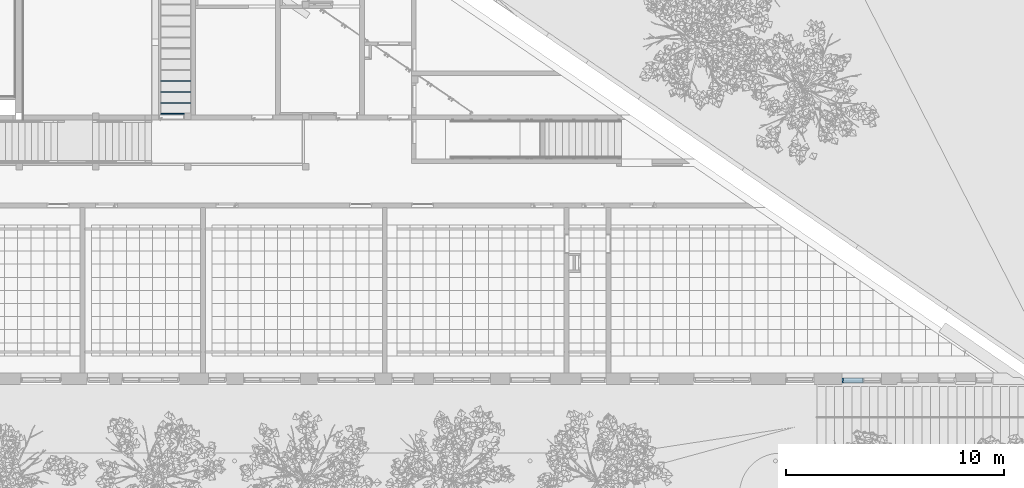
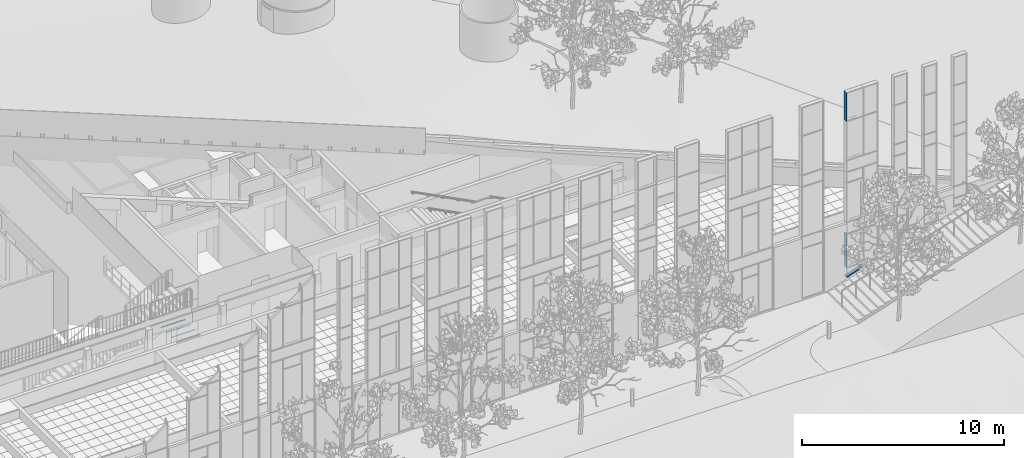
# One storey, part 80 of 246: 4 beams, 3 members, 1 element without a shape of its own.
"""IFC2X3 building model written with IfcOpenShell, lengths in millimetres."""

from ifc_helpers import new_model, entity, si_unit, converted_unit, derived_unit, money_unit, direction, frame, origin_with_axes, place, context, subcontext, project, spatial, faceted_brep, material, type_object, element, aggregate, save


model = new_model("IFC2X3")

# Units and contexts
model_context = context("Model", 3, precision=0.01, world=origin_with_axes(), true_north=direction((0.0, 1.0)))
body_context = subcontext(model_context, "Body", "Model", "MODEL_VIEW")
ifc_project = project(units=[si_unit("LENGTHUNIT", "METRE", prefix="MILLI"), si_unit("AREAUNIT", "SQUARE_METRE"), si_unit("VOLUMEUNIT", "CUBIC_METRE"), converted_unit("PLANEANGLEUNIT", "DEGREE", entity("IfcPlaneAngleMeasure", 0.0174532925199), si_unit("PLANEANGLEUNIT", "RADIAN"), dimensions=[0, 0, 0, 0, 0, 0, 0]), si_unit("SOLIDANGLEUNIT", "STERADIAN"), money_unit("EUR"), converted_unit("TIMEUNIT", "Year", entity("IfcTimeMeasure", 31556926.0), si_unit("TIMEUNIT", "SECOND"), dimensions=[0, 0, 1, 0, 0, 0, 0]), si_unit("MASSUNIT", "GRAM", prefix="KILO"), si_unit("THERMODYNAMICTEMPERATUREUNIT", "DEGREE_CELSIUS"), si_unit("LUMINOUSINTENSITYUNIT", "LUMEN"), si_unit("ENERGYUNIT", "JOULE", prefix="MEGA"), derived_unit("THERMALCONDUCTANCEUNIT", [(si_unit("POWERUNIT", "WATT"), 1), (si_unit("LENGTHUNIT", "METRE"), -1), (si_unit("THERMODYNAMICTEMPERATUREUNIT", "KELVIN"), -1)]), derived_unit("SPECIFICHEATCAPACITYUNIT", [(si_unit("ENERGYUNIT", "JOULE"), 1), (si_unit("MASSUNIT", "GRAM", prefix="KILO"), -1), (si_unit("THERMODYNAMICTEMPERATUREUNIT", "KELVIN"), -1)]), derived_unit("MASSDENSITYUNIT", [(si_unit("MASSUNIT", "GRAM", prefix="KILO"), 1), (si_unit("VOLUMEUNIT", "CUBIC_METRE"), -1)])], contexts=[model_context])

# Site, building, storey
site_placement = place(None, origin_with_axes())
site = spatial("IfcSite", under=ifc_project, at=site_placement, Name="L.Koidula tn 11b", CompositionType="ELEMENT")
building_placement = place(site_placement, origin_with_axes())
building = spatial("IfcBuilding", under=site, at=building_placement, Name="Rakvere Riigigümnaasium", CompositionType="ELEMENT")
storey_placement = place(building_placement, origin_with_axes())
storey = spatial("IfcBuildingStorey", under=building, at=storey_placement, Name="1.korrus 0,00", CompositionType="ELEMENT", Elevation=0.0)

# Beams
ifc_material_1 = material(Name="teras_must")
beam_type = type_object("IfcBeamType", Name="SHS50x50x4-AR 50 x 50", PredefinedType="BEAM")
beam_1_placement = place(storey_placement, frame((64460.0209314, 17375.4556024, -54.9862868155), z_axis=(0.0, 0.0, 1.0), x_axis=(0.0, -1.0, 0.0)))
element("IfcBeam", 1, at=beam_1_placement, inside=storey, type_object=beam_type, material=ifc_material_1, Name="TALA", ObjectType="BEAM", context=body_context, shape_type="Brep", body=[
    faceted_brep([(-22.8994949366, 47.0710678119, 22.0710678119), (22.8994949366, 47.0710678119, 22.0710678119), (22.6568542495, 45.6568542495, 22.6568542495), (17.0, 40.0, 25.0), (-17.0, 40.0, 25.0), (-22.6568542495, 45.6568542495, 22.6568542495), (25.0, 50.0, 15.0), (25.0, 49.1715728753, 17.0), (-25.0, 49.1715728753, 17.0), (-25.0, 50.0, 15.0), (-21.0, 50.0, 15.0), (-21.0, 49.1715728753, 17.0), (-19.8284271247, 48.0, 19.8284271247), (-17.0, 47.5147186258, 21.0), (17.0, 47.5147186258, 21.0), (19.8284271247, 48.0, 19.8284271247), (21.0, 49.1715728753, 17.0), (21.0, 50.0, 15.0), (25.0, 1439.97714151, 17.0), (22.6568542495, 1439.97714151, 22.6568542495), (17.0, 1439.97714151, 25.0), (-17.0, 1439.97714151, 25.0), (-22.6568542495, 1439.97714151, 22.6568542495), (-25.0, 1439.97714151, 17.0), (25.0, 50.0, -17.0), (25.0, 1439.97714151, -17.0), (-25.0, 1439.97714151, -17.0), (-25.0, 50.0, -17.0), (17.0, 50.0, -25.0), (22.6568542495, 50.0, -22.6568542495), (21.0, 50.0, -17.0), (19.8284271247, 50.0, -19.8284271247), (17.0, 50.0, -21.0), (-17.0, 50.0, -21.0), (-19.8284271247, 50.0, -19.8284271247), (-21.0, 50.0, -17.0), (-22.6568542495, 50.0, -22.6568542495), (-17.0, 50.0, -25.0), (-21.0, 1439.97714151, 17.0), (-21.0, 1439.97714151, -17.0), (-19.8284271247, 1439.97714151, 19.8284271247), (-17.0, 1439.97714151, 21.0), (17.0, 1439.97714151, 21.0), (19.8284271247, 1439.97714151, 19.8284271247), (21.0, 1439.97714151, 17.0), (21.0, 1439.97714151, -17.0), (22.6568542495, 1439.97714151, -22.6568542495), (17.0, 1439.97714151, -25.0), (-17.0, 1439.97714151, -25.0), (-22.6568542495, 1439.97714151, -22.6568542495), (17.0, 1439.97714151, -21.0), (19.8284271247, 1439.97714151, -19.8284271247), (-19.8284271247, 1439.97714151, -19.8284271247), (-17.0, 1439.97714151, -21.0)], [[[0, 1, 2, 3, 4, 5]], [[6, 7, 1, 0, 8, 9, 10, 11, 12, 13, 14, 15, 16, 17]], [[2, 1, 7, 18, 19]], [[20, 3, 2, 19]], [[21, 4, 3, 20]], [[22, 5, 4, 21]], [[23, 8, 0, 5, 22]], [[6, 24, 25, 18, 7]], [[26, 27, 9, 8, 23]], [[28, 29, 24, 6, 17, 30, 31, 32, 33, 34, 35, 10, 9, 27, 36, 37]], [[38, 11, 10, 35, 39]], [[40, 12, 11, 38]], [[41, 13, 12, 40]], [[42, 14, 13, 41]], [[43, 15, 14, 42]], [[44, 16, 15, 43]], [[30, 17, 16, 44, 45]], [[18, 25, 46, 47, 48, 49, 26, 23, 22, 21, 20, 19], [50, 51, 45, 44, 43, 42, 41, 40, 38, 39, 52, 53]], [[25, 24, 29, 46]], [[49, 36, 27, 26]], [[46, 29, 28, 47]], [[51, 31, 30, 45]], [[50, 32, 31, 51]], [[53, 33, 32, 50]], [[52, 34, 33, 53]], [[39, 35, 34, 52]], [[48, 37, 36, 49]], [[47, 28, 37, 48]]]),
])
beam_2_placement = place(storey_placement, frame((64460.0209314, 17875.4556024, -54.9862868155), z_axis=(0.0, 0.0, 1.0), x_axis=(0.0, -1.0, 0.0)))
element("IfcBeam", 2, at=beam_2_placement, inside=storey, type_object=beam_type, material=ifc_material_1, Name="TALA", ObjectType="BEAM", context=body_context, shape_type="Brep", body=[
    faceted_brep([(-22.8994949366, 47.0710678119, 22.0710678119), (22.8994949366, 47.0710678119, 22.0710678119), (22.6568542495, 45.6568542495, 22.6568542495), (17.0, 40.0, 25.0), (-17.0, 40.0, 25.0), (-22.6568542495, 45.6568542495, 22.6568542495), (25.0, 50.0, 15.0), (25.0, 49.1715728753, 17.0), (-25.0, 49.1715728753, 17.0), (-25.0, 50.0, 15.0), (-21.0, 50.0, 15.0), (-21.0, 49.1715728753, 17.0), (-19.8284271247, 48.0, 19.8284271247), (-17.0, 47.5147186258, 21.0), (17.0, 47.5147186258, 21.0), (19.8284271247, 48.0, 19.8284271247), (21.0, 49.1715728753, 17.0), (21.0, 50.0, 15.0), (25.0, 1439.97714151, 17.0), (22.6568542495, 1439.97714151, 22.6568542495), (17.0, 1439.97714151, 25.0), (-17.0, 1439.97714151, 25.0), (-22.6568542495, 1439.97714151, 22.6568542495), (-25.0, 1439.97714151, 17.0), (25.0, 50.0, -17.0), (25.0, 1439.97714151, -17.0), (-25.0, 1439.97714151, -17.0), (-25.0, 50.0, -17.0), (17.0, 50.0, -25.0), (22.6568542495, 50.0, -22.6568542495), (21.0, 50.0, -17.0), (19.8284271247, 50.0, -19.8284271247), (17.0, 50.0, -21.0), (-17.0, 50.0, -21.0), (-19.8284271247, 50.0, -19.8284271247), (-21.0, 50.0, -17.0), (-22.6568542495, 50.0, -22.6568542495), (-17.0, 50.0, -25.0), (-21.0, 1439.97714151, -17.0), (-21.0, 1439.97714151, 17.0), (-19.8284271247, 1439.97714151, 19.8284271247), (-17.0, 1439.97714151, 21.0), (17.0, 1439.97714151, 21.0), (19.8284271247, 1439.97714151, 19.8284271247), (21.0, 1439.97714151, 17.0), (21.0, 1439.97714151, -17.0), (22.6568542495, 1439.97714151, -22.6568542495), (17.0, 1439.97714151, -25.0), (-17.0, 1439.97714151, -25.0), (-22.6568542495, 1439.97714151, -22.6568542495), (17.0, 1439.97714151, -21.0), (19.8284271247, 1439.97714151, -19.8284271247), (-19.8284271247, 1439.97714151, -19.8284271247), (-17.0, 1439.97714151, -21.0)], [[[0, 1, 2, 3, 4, 5]], [[6, 7, 1, 0, 8, 9, 10, 11, 12, 13, 14, 15, 16, 17]], [[2, 1, 7, 18, 19]], [[20, 3, 2, 19]], [[21, 4, 3, 20]], [[22, 5, 4, 21]], [[23, 8, 0, 5, 22]], [[6, 24, 25, 18, 7]], [[26, 27, 9, 8, 23]], [[28, 29, 24, 6, 17, 30, 31, 32, 33, 34, 35, 10, 9, 27, 36, 37]], [[11, 10, 35, 38, 39]], [[40, 12, 11, 39]], [[41, 13, 12, 40]], [[42, 14, 13, 41]], [[43, 15, 14, 42]], [[44, 16, 15, 43]], [[45, 30, 17, 16, 44]], [[18, 25, 46, 47, 48, 49, 26, 23, 22, 21, 20, 19], [50, 51, 45, 44, 43, 42, 41, 40, 39, 38, 52, 53]], [[25, 24, 29, 46]], [[49, 36, 27, 26]], [[46, 29, 28, 47]], [[51, 31, 30, 45]], [[50, 32, 31, 51]], [[53, 33, 32, 50]], [[52, 34, 33, 53]], [[38, 35, 34, 52]], [[48, 37, 36, 49]], [[47, 28, 37, 48]]]),
])
beam_3_placement = place(storey_placement, frame((64460.0209314, 18375.4556024, -54.9862868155), z_axis=(0.0, 0.0, 1.0), x_axis=(0.0, -1.0, 0.0)))
element("IfcBeam", 3, at=beam_3_placement, inside=storey, type_object=beam_type, material=ifc_material_1, Name="TALA", ObjectType="BEAM", context=body_context, shape_type="Brep", body=[
    faceted_brep([(-22.8994949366, 47.0710678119, 22.0710678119), (22.8994949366, 47.0710678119, 22.0710678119), (22.6568542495, 45.6568542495, 22.6568542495), (17.0, 40.0, 25.0), (-17.0, 40.0, 25.0), (-22.6568542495, 45.6568542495, 22.6568542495), (25.0, 50.0, 15.0), (25.0, 49.1715728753, 17.0), (-25.0, 49.1715728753, 17.0), (-25.0, 50.0, 15.0), (-21.0, 50.0, 15.0), (-21.0, 49.1715728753, 17.0), (-19.8284271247, 48.0, 19.8284271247), (-17.0, 47.5147186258, 21.0), (17.0, 47.5147186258, 21.0), (19.8284271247, 48.0, 19.8284271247), (21.0, 49.1715728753, 17.0), (21.0, 50.0, 15.0), (25.0, 1439.97714151, 17.0), (22.6568542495, 1439.97714151, 22.6568542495), (17.0, 1439.97714151, 25.0), (-17.0, 1439.97714151, 25.0), (-22.6568542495, 1439.97714151, 22.6568542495), (-25.0, 1439.97714151, 17.0), (25.0, 50.0, -17.0), (25.0, 1439.97714151, -17.0), (-25.0, 1439.97714151, -17.0), (-25.0, 50.0, -17.0), (17.0, 50.0, -25.0), (22.6568542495, 50.0, -22.6568542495), (21.0, 50.0, -17.0), (19.8284271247, 50.0, -19.8284271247), (17.0, 50.0, -21.0), (-17.0, 50.0, -21.0), (-19.8284271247, 50.0, -19.8284271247), (-21.0, 50.0, -17.0), (-22.6568542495, 50.0, -22.6568542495), (-17.0, 50.0, -25.0), (-21.0, 1439.97714151, 17.0), (-21.0, 1439.97714151, -17.0), (-19.8284271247, 1439.97714151, 19.8284271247), (-17.0, 1439.97714151, 21.0), (17.0, 1439.97714151, 21.0), (19.8284271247, 1439.97714151, 19.8284271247), (21.0, 1439.97714151, 17.0), (21.0, 1439.97714151, -17.0), (22.6568542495, 1439.97714151, -22.6568542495), (17.0, 1439.97714151, -25.0), (-17.0, 1439.97714151, -25.0), (-22.6568542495, 1439.97714151, -22.6568542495), (17.0, 1439.97714151, -21.0), (19.8284271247, 1439.97714151, -19.8284271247), (-19.8284271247, 1439.97714151, -19.8284271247), (-17.0, 1439.97714151, -21.0)], [[[0, 1, 2, 3, 4, 5]], [[6, 7, 1, 0, 8, 9, 10, 11, 12, 13, 14, 15, 16, 17]], [[2, 1, 7, 18, 19]], [[20, 3, 2, 19]], [[21, 4, 3, 20]], [[22, 5, 4, 21]], [[23, 8, 0, 5, 22]], [[6, 24, 25, 18, 7]], [[26, 27, 9, 8, 23]], [[28, 29, 24, 6, 17, 30, 31, 32, 33, 34, 35, 10, 9, 27, 36, 37]], [[38, 11, 10, 35, 39]], [[40, 12, 11, 38]], [[41, 13, 12, 40]], [[42, 14, 13, 41]], [[43, 15, 14, 42]], [[44, 16, 15, 43]], [[30, 17, 16, 44, 45]], [[18, 25, 46, 47, 48, 49, 26, 23, 22, 21, 20, 19], [50, 51, 45, 44, 43, 42, 41, 40, 38, 39, 52, 53]], [[25, 24, 29, 46]], [[49, 36, 27, 26]], [[46, 29, 28, 47]], [[51, 31, 30, 45]], [[50, 32, 31, 51]], [[53, 33, 32, 50]], [[52, 34, 33, 53]], [[39, 35, 34, 52]], [[48, 37, 36, 49]], [[47, 28, 37, 48]]]),
])
beam_4_placement = place(storey_placement, frame((64460.0209314, 18875.4556024, -54.9862868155), z_axis=(0.0, 0.0, 1.0), x_axis=(0.0, -1.0, 0.0)))
element("IfcBeam", 4, at=beam_4_placement, inside=storey, type_object=beam_type, material=ifc_material_1, Name="TALA", ObjectType="BEAM", context=body_context, shape_type="Brep", body=[
    faceted_brep([(-22.8994949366, 47.0710678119, 22.0710678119), (22.8994949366, 47.0710678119, 22.0710678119), (22.6568542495, 45.6568542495, 22.6568542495), (17.0, 40.0, 25.0), (-17.0, 40.0, 25.0), (-22.6568542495, 45.6568542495, 22.6568542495), (25.0, 50.0, 15.0), (25.0, 49.1715728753, 17.0), (-25.0, 49.1715728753, 17.0), (-25.0, 50.0, 15.0), (-21.0, 50.0, 15.0), (-21.0, 49.1715728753, 17.0), (-19.8284271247, 48.0, 19.8284271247), (-17.0, 47.5147186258, 21.0), (17.0, 47.5147186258, 21.0), (19.8284271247, 48.0, 19.8284271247), (21.0, 49.1715728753, 17.0), (21.0, 50.0, 15.0), (25.0, 1439.97714151, 17.0), (22.6568542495, 1439.97714151, 22.6568542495), (17.0, 1439.97714151, 25.0), (-17.0, 1439.97714151, 25.0), (-22.6568542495, 1439.97714151, 22.6568542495), (-25.0, 1439.97714151, 17.0), (25.0, 50.0, -17.0), (25.0, 1439.97714151, -17.0), (-25.0, 50.0, -17.0), (-25.0, 1439.97714151, -17.0), (17.0, 50.0, -25.0), (22.6568542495, 50.0, -22.6568542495), (21.0, 50.0, -17.0), (19.8284271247, 50.0, -19.8284271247), (17.0, 50.0, -21.0), (-17.0, 50.0, -21.0), (-19.8284271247, 50.0, -19.8284271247), (-21.0, 50.0, -17.0), (-22.6568542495, 50.0, -22.6568542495), (-17.0, 50.0, -25.0), (-21.0, 1439.97714151, -17.0), (-21.0, 1439.97714151, 17.0), (-19.8284271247, 1439.97714151, 19.8284271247), (-17.0, 1439.97714151, 21.0), (17.0, 1439.97714151, 21.0), (19.8284271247, 1439.97714151, 19.8284271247), (21.0, 1439.97714151, 17.0), (21.0, 1439.97714151, -17.0), (22.6568542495, 1439.97714151, -22.6568542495), (17.0, 1439.97714151, -25.0), (-17.0, 1439.97714151, -25.0), (-22.6568542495, 1439.97714151, -22.6568542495), (17.0, 1439.97714151, -21.0), (19.8284271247, 1439.97714151, -19.8284271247), (-19.8284271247, 1439.97714151, -19.8284271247), (-17.0, 1439.97714151, -21.0)], [[[0, 1, 2, 3, 4, 5]], [[6, 7, 1, 0, 8, 9, 10, 11, 12, 13, 14, 15, 16, 17]], [[2, 1, 7, 18, 19]], [[20, 3, 2, 19]], [[21, 4, 3, 20]], [[22, 5, 4, 21]], [[23, 8, 0, 5, 22]], [[18, 7, 6, 24, 25]], [[26, 9, 8, 23, 27]], [[28, 29, 24, 6, 17, 30, 31, 32, 33, 34, 35, 10, 9, 26, 36, 37]], [[11, 10, 35, 38, 39]], [[40, 12, 11, 39]], [[41, 13, 12, 40]], [[42, 14, 13, 41]], [[43, 15, 14, 42]], [[44, 16, 15, 43]], [[30, 17, 16, 44, 45]], [[18, 25, 46, 47, 48, 49, 27, 23, 22, 21, 20, 19], [50, 51, 45, 44, 43, 42, 41, 40, 39, 38, 52, 53]], [[25, 24, 29, 46]], [[49, 36, 26, 27]], [[46, 29, 28, 47]], [[51, 31, 30, 45]], [[50, 32, 31, 51]], [[53, 33, 32, 50]], [[52, 34, 33, 53]], [[38, 35, 34, 52]], [[49, 48, 37, 36]], [[47, 28, 37, 48]]]),
])

# Curtain wall, members
curtain_wall_type = type_object("IfcCurtainWallType", Name="Curtain Wall Type", PredefinedType="NOTDEFINED")
curtain_wall_placement = place(storey_placement, frame((96030.936158, 5111.45334637, 394.620798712), z_axis=(0.0, 0.0, 1.0), x_axis=(1.0, 0.0, 0.0)))
curtain_wall = element("IfcCurtainWall", 5, at=curtain_wall_placement, inside=storey, type_object=curtain_wall_type, Name="KLF-05-2C")
ifc_material_2 = material(Name="Alumiiniumprofiil (RAL 7021)")
member_type = type_object("IfcMemberType", Name="Boundary Frame 50 x 222", PredefinedType="MULLION")
member_1_placement = place(curtain_wall_placement, frame((-330.936039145, 0.0, 605.379193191), z_axis=(0.0, 0.0, 1.0), x_axis=(-1.0, 0.0, 0.0)))
member_1 = element("IfcMember", 6, at=member_1_placement, type_object=member_type, material=ifc_material_2, Name="KLF-05-0C-Profiilid", ObjectType="MULLION", context=body_context, shape_type="Brep", body=[
    faceted_brep([(-37.0, -32.5, 2040.0), (-50.0, -32.5, 2040.0), (-50.0, -169.0, 2040.0), (0.0, -169.0, 2040.0), (0.0, 53.0, 2040.0), (-50.0, 53.0, 2040.0), (-50.0, 32.5, 2040.0), (-37.0, 32.5, 2040.0), (-37.0, -32.5, 0.0), (-50.0, -32.5, 0.0), (-50.0, -169.0, 0.0), (0.0, -169.0, 0.0), (0.0, 53.0, 0.0), (-50.0, 53.0, 0.0), (-50.0, 32.5, 0.0), (-37.0, 32.5, 0.0)], [[[0, 1, 2, 3, 4, 5, 6, 7]], [[0, 8, 9, 1]], [[9, 10, 2, 1]], [[10, 11, 3, 2]], [[11, 12, 4, 3]], [[12, 13, 5, 4]], [[6, 5, 13, 14]], [[14, 15, 7, 6]], [[7, 15, 8, 0]], [[8, 15, 14, 13, 12, 11, 10, 9]]]),
])
member_2_placement = place(curtain_wall_placement, frame((-330.936039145, 0.0, 7.49989885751e-05), z_axis=(0.951885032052, 0.0, 0.306455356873), x_axis=(-0.306455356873, 0.0, 0.951885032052)))
member_2 = element("IfcMember", 7, at=member_2_placement, type_object=member_type, material=ifc_material_2, Name="KLF-05-2C-Profiilid", ObjectType="MULLION", context=body_context, shape_type="Brep", body=[
    faceted_brep([(37.0, -32.5, 1024.28336447), (37.0, 32.5, 1024.28336447), (50.0, 32.5, 1024.28336447), (50.0, 53.0, 1024.28336447), (0.0, 53.0, 1024.28336447), (0.0, -169.0, 1024.28336447), (50.0, -169.0, 1024.28336447), (50.0, -32.5, 1024.28336447), (37.0, -32.5, 50.7822337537), (37.0, 32.5, 50.7822337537), (50.0, 32.5, 68.6246402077), (50.0, 53.0, 68.6246402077), (0.0, 53.0, 0.0), (0.0, -169.0, 0.0), (50.0, -169.0, 68.6246402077), (50.0, -32.5, 68.6246402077)], [[[0, 1, 2, 3, 4, 5, 6, 7]], [[1, 0, 8, 9]], [[10, 2, 1, 9]], [[2, 10, 11, 3]], [[4, 3, 11, 12]], [[5, 4, 12, 13]], [[6, 5, 13, 14]], [[15, 7, 6, 14]], [[0, 7, 15, 8]], [[8, 15, 14, 13, 12, 11, 10, 9]]]),
])
member_3_placement = place(curtain_wall_placement, frame((-330.936039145, 0.0, 9445.37919319), z_axis=(0.0, 0.0, 1.0), x_axis=(-1.0, 0.0, 0.0)))
member_3 = element("IfcMember", 8, at=member_3_placement, type_object=member_type, material=ifc_material_2, Name="KLF-05-4C-Profiilid", ObjectType="MULLION", context=body_context, shape_type="Brep", body=[
    faceted_brep([(-37.0, -32.5, 1712.62081597), (-50.0, -32.5, 1699.62081597), (-50.0, -169.0, 1699.62081597), (0.0, -169.0, 1749.62081597), (0.0, 53.0, 1749.62081597), (-50.0, 53.0, 1699.62081597), (-50.0, 32.5, 1699.62081597), (-37.0, 32.5, 1712.62081597), (-37.0, -32.5, 0.0), (-50.0, -32.5, 0.0), (-50.0, -169.0, 0.0), (0.0, -169.0, 0.0), (0.0, 53.0, 0.0), (-50.0, 53.0, 0.0), (-50.0, 32.5, 0.0), (-37.0, 32.5, 0.0)], [[[0, 1, 2, 3, 4, 5, 6, 7]], [[0, 8, 9, 1]], [[9, 10, 2, 1]], [[10, 11, 3, 2]], [[11, 12, 4, 3]], [[12, 13, 5, 4]], [[6, 5, 13, 14]], [[14, 15, 7, 6]], [[7, 15, 8, 0]], [[8, 15, 14, 13, 12, 11, 10, 9]]]),
])
aggregate(curtain_wall, [member_1, member_2, member_3])

save(model, "model.ifc")
